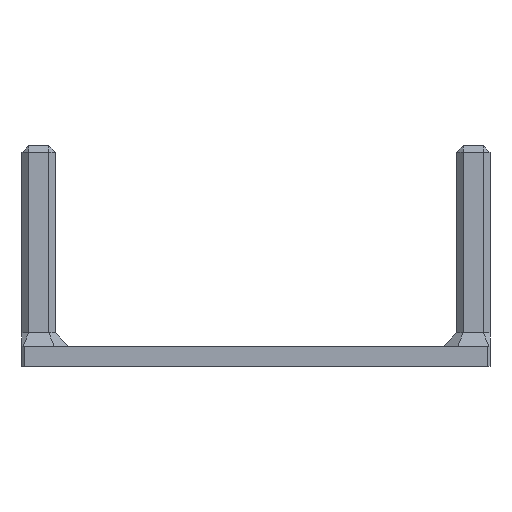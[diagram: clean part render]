
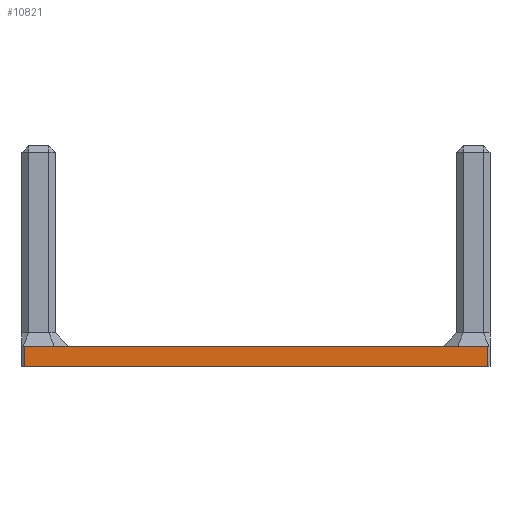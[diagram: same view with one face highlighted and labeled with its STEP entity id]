
A CAD part, left-side view. The second image highlights one B-rep face of the part: STEP entity #10821.
In plain terms, the highlighted planar face has unit normal (-1, 0, 0).
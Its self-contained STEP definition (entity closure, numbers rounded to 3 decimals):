
#81 = LINE ( 'NONE', #11526, #14070 ) ;
#349 = VERTEX_POINT ( 'NONE', #10917 ) ;
#2896 = EDGE_LOOP ( 'NONE', ( #4529, #15650, #13012, #6609 ) ) ;
#3783 = VECTOR ( 'NONE', #18225, 1000. ) ;
#4000 = DIRECTION ( 'NONE',  ( 0., 0., 1. ) ) ;
#4230 = EDGE_CURVE ( 'NONE', #13248, #349, #11669, .T. ) ;
#4231 = AXIS2_PLACEMENT_3D ( 'NONE', #15510, #7274, #4000 ) ;
#4529 = ORIENTED_EDGE ( 'NONE', *, *, #11170, .F. ) ;
#4547 = DIRECTION ( 'NONE',  ( 0., 0., 1. ) ) ;
#5854 = CARTESIAN_POINT ( 'NONE',  ( 0., 69.7, 0. ) ) ;
#6054 = CARTESIAN_POINT ( 'NONE',  ( 0., 0.3, 3. ) ) ;
#6609 = ORIENTED_EDGE ( 'NONE', *, *, #6901, .T. ) ;
#6901 = EDGE_CURVE ( 'NONE', #6924, #12084, #6921, .T. ) ;
#6921 = LINE ( 'NONE', #15613, #18474 ) ;
#6924 = VERTEX_POINT ( 'NONE', #18340 ) ;
#7274 = DIRECTION ( 'NONE',  ( -1., 0., 0. ) ) ;
#10821 = ADVANCED_FACE ( 'NONE', ( #11400 ), #14192, .T. ) ;
#10917 = CARTESIAN_POINT ( 'NONE',  ( 0., 0.3, 3. ) ) ;
#11170 = EDGE_CURVE ( 'NONE', #13248, #12084, #81, .T. ) ;
#11400 = FACE_OUTER_BOUND ( 'NONE', #2896, .T. ) ;
#11526 = CARTESIAN_POINT ( 'NONE',  ( 0., 0., 0. ) ) ;
#11669 = LINE ( 'NONE', #6054, #16427 ) ;
#12084 = VERTEX_POINT ( 'NONE', #5854 ) ;
#13012 = ORIENTED_EDGE ( 'NONE', *, *, #14572, .T. ) ;
#13248 = VERTEX_POINT ( 'NONE', #16333 ) ;
#14070 = VECTOR ( 'NONE', #17223, 1000. ) ;
#14101 = LINE ( 'NONE', #18400, #3783 ) ;
#14192 = PLANE ( 'NONE',  #4231 ) ;
#14572 = EDGE_CURVE ( 'NONE', #349, #6924, #14101, .T. ) ;
#15510 = CARTESIAN_POINT ( 'NONE',  ( 0., 0., 3. ) ) ;
#15613 = CARTESIAN_POINT ( 'NONE',  ( 0., 69.7, 3. ) ) ;
#15650 = ORIENTED_EDGE ( 'NONE', *, *, #4230, .T. ) ;
#16333 = CARTESIAN_POINT ( 'NONE',  ( 0., 0.3, 0. ) ) ;
#16427 = VECTOR ( 'NONE', #4547, 1000. ) ;
#16737 = DIRECTION ( 'NONE',  ( 0., 0., -1. ) ) ;
#17223 = DIRECTION ( 'NONE',  ( 0., 1., 0. ) ) ;
#18225 = DIRECTION ( 'NONE',  ( 0., 1., 0. ) ) ;
#18340 = CARTESIAN_POINT ( 'NONE',  ( 0., 69.7, 3. ) ) ;
#18400 = CARTESIAN_POINT ( 'NONE',  ( 0., 0., 3. ) ) ;
#18474 = VECTOR ( 'NONE', #16737, 1000. ) ;
